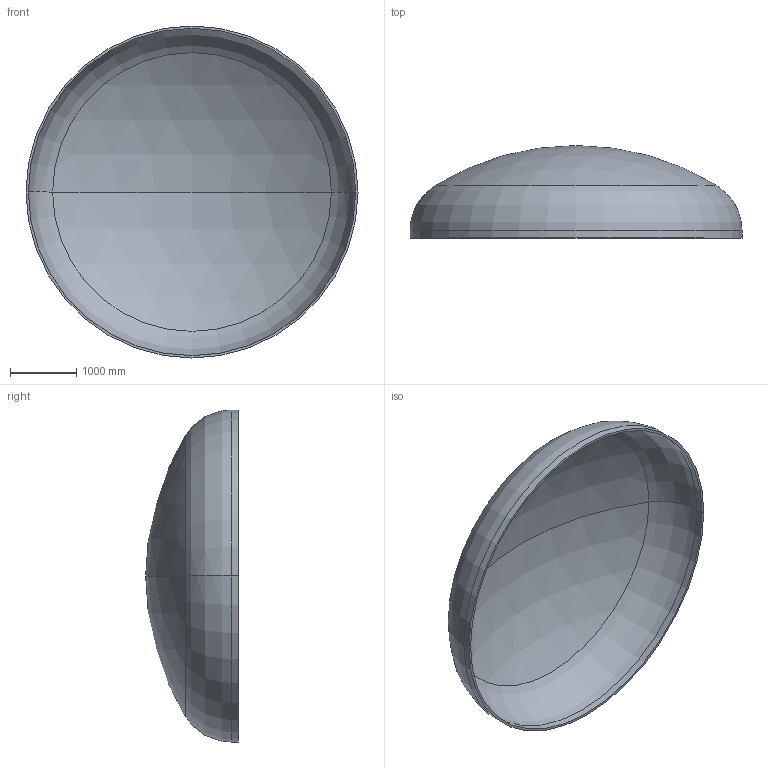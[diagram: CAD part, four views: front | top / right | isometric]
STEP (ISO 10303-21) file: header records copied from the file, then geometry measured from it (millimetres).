
FILE_DESCRIPTION (( 'STEP AP203' ), '1' );
FILE_NAME ('DIN 28013 Korbbogenform_-_Boden DIN 28013 - 5000 x 110 - I - s=35.step', '2016-07-02T00:23:33', ( '' ), ( '' ), 'SwSTEP 2.0', 'SolidWorks 2013', '' );
FILE_SCHEMA (( 'CONFIG_CONTROL_DESIGN' ));
Length unit declared in the file: millimetre
Products named in the file (1): DIN 28013 Korbbogenform_-_Boden DIN 28013 - 5000 x 110 - I - s=35
Bounding box: 5000 x 1395.48 x 5000 mm (x, y, z)
Volume: 1003090218.5 mm3; surface area: 57867914.9 mm2
Topology: 1 solids, 1 shells, 13 faces, 24 edges, 14 vertices
Faces by surface type: torus 4, cylinder 4, sphere 4, plane 1
Entity records: 407 total; most frequent: DIRECTION 72, CARTESIAN_POINT 52, ORIENTED_EDGE 48, AXIS2_PLACEMENT_3D 34, EDGE_CURVE 24, CIRCLE 20, VERTEX_POINT 14, EDGE_LOOP 14
